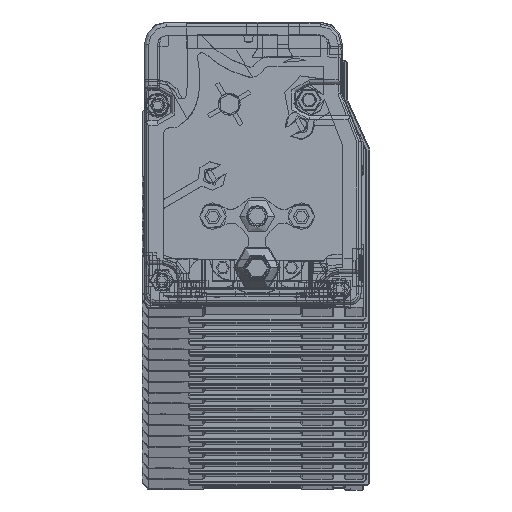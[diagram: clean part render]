
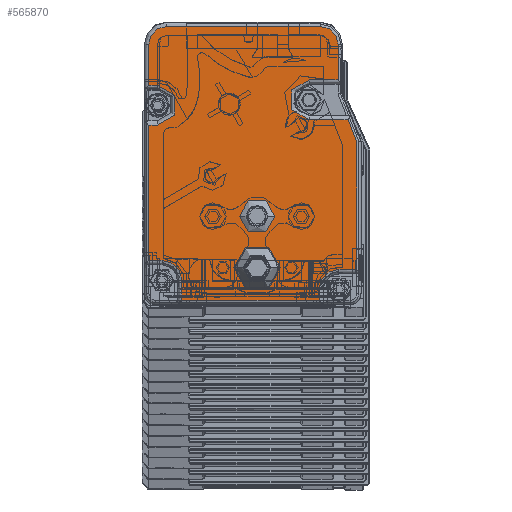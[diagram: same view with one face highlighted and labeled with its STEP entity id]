
A CAD part, top view. The second image highlights one B-rep face of the part: STEP entity #565870.
In plain terms, the highlighted planar face has unit normal (0, 0, 1).
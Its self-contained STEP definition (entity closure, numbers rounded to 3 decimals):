
#563760=CARTESIAN_POINT('',(-20.265,1.758,
3572.39));
#563770=DIRECTION('',(0.,0.,-1.));
#563780=DIRECTION('',(-1.,0.,0.));
#563790=AXIS2_PLACEMENT_3D('',#563760,#563770,#563780);
#563800=PLANE('',#563790);
#563810=CARTESIAN_POINT('',(-44.056,10.421,
3572.39));
#563820=DIRECTION('',(0.,0.,-1.));
#563830=DIRECTION('',(-1.,0.,0.));
#563840=AXIS2_PLACEMENT_3D('',#563810,#563820,#563830);
#563850=CIRCLE('',#563840,5.);
#563860=CARTESIAN_POINT('',(-49.056,10.421,
3572.39));
#563870=VERTEX_POINT('',#563860);
#563880=CARTESIAN_POINT('',(-39.056,10.421,
3572.39));
#563890=VERTEX_POINT('',#563880);
#563900=EDGE_CURVE('',#563870,#563890,#563850,.T.);
#563910=ORIENTED_EDGE('',*,*,#563900,.T.);
#563920=EDGE_CURVE('',#563890,#563870,#563850,.T.);
#563930=ORIENTED_EDGE('',*,*,#563920,.T.);
#563940=EDGE_LOOP('',(#563930,#563910));
#563950=FACE_BOUND('',#563940,.T.);
#563960=CARTESIAN_POINT('',(-44.059,22.124,
3572.39));
#563970=DIRECTION('',(0.,0.,1.));
#563980=DIRECTION('',(-1.,0.,0.));
#563990=AXIS2_PLACEMENT_3D('',#563960,#563970,#563980);
#564000=CIRCLE('',#563990,4.);
#564010=CARTESIAN_POINT('',(-40.059,22.124,
3572.39));
#564020=VERTEX_POINT('',#564010);
#564030=CARTESIAN_POINT('',(-48.059,22.124,
3572.39));
#564040=VERTEX_POINT('',#564030);
#564050=EDGE_CURVE('',#564020,#564040,#564000,.T.);
#564060=ORIENTED_EDGE('',*,*,#564050,.F.);
#564070=EDGE_CURVE('',#564040,#564020,#564000,.T.);
#564080=ORIENTED_EDGE('',*,*,#564070,.F.);
#564090=EDGE_LOOP('',(#564080,#564060));
#564100=FACE_BOUND('',#564090,.T.);
#564110=CARTESIAN_POINT('',(-61.059,2.124,
3572.39));
#564120=DIRECTION('',(0.,-1.,0.));
#564130=VECTOR('',#564120,1.);
#564140=LINE('',#564110,#564130);
#564150=CARTESIAN_POINT('',(-61.059,7.624,
3572.39));
#564160=VERTEX_POINT('',#564150);
#564170=CARTESIAN_POINT('',(-61.059,3.124,
3572.39));
#564180=VERTEX_POINT('',#564170);
#564190=EDGE_CURVE('',#564160,#564180,#564140,.T.);
#564200=ORIENTED_EDGE('',*,*,#564190,.T.);
#564210=CARTESIAN_POINT('',(-65.559,7.624,
3572.39));
#564220=DIRECTION('',(0.,0.,-1.));
#564230=DIRECTION('',(-1.,0.,0.));
#564240=AXIS2_PLACEMENT_3D('',#564210,#564220,#564230);
#564250=CIRCLE('',#564240,4.5);
#564260=CARTESIAN_POINT('',(-65.559,12.124,
3572.39));
#564270=VERTEX_POINT('',#564260);
#564280=EDGE_CURVE('',#564270,#564160,#564250,.T.);
#564290=ORIENTED_EDGE('',*,*,#564280,.T.);
#564300=CARTESIAN_POINT('',(-20.559,12.124,
3572.39));
#564310=DIRECTION('',(1.,0.,0.));
#564320=VECTOR('',#564310,1.);
#564330=LINE('',#564300,#564320);
#564340=CARTESIAN_POINT('',(-68.559,12.124,
3572.39));
#564350=VERTEX_POINT('',#564340);
#564360=EDGE_CURVE('',#564350,#564270,#564330,.T.);
#564370=ORIENTED_EDGE('',*,*,#564360,.T.);
#564380=CARTESIAN_POINT('',(-68.559,2.124,
3572.39));
#564390=DIRECTION('',(0.,-1.,0.));
#564400=VECTOR('',#564390,1.);
#564410=LINE('',#564380,#564400);
#564420=CARTESIAN_POINT('',(-68.559,42.727,
3572.39));
#564430=VERTEX_POINT('',#564420);
#564440=EDGE_CURVE('',#564430,#564350,#564410,.T.);
#564450=ORIENTED_EDGE('',*,*,#564440,.T.);
#564460=CARTESIAN_POINT('',(-20.559,42.727,
3572.39));
#564470=DIRECTION('',(-1.,0.,0.));
#564480=VECTOR('',#564470,1.);
#564490=LINE('',#564460,#564480);
#564500=CARTESIAN_POINT('',(-66.559,42.727,
3572.39));
#564510=VERTEX_POINT('',#564500);
#564520=EDGE_CURVE('',#564510,#564430,#564490,.T.);
#564530=ORIENTED_EDGE('',*,*,#564520,.T.);
#564540=CARTESIAN_POINT('',(-66.559,47.227,
3572.39));
#564550=DIRECTION('',(0.,0.,-1.));
#564560=DIRECTION('',(-1.,0.,0.));
#564570=AXIS2_PLACEMENT_3D('',#564540,#564550,#564560);
#564580=CIRCLE('',#564570,4.5);
#564590=CARTESIAN_POINT('',(-66.559,51.727,
3572.39));
#564600=VERTEX_POINT('',#564590);
#564610=EDGE_CURVE('',#564600,#564510,#564580,.T.);
#564620=ORIENTED_EDGE('',*,*,#564610,.T.);
#564630=CARTESIAN_POINT('',(-20.559,51.727,
3572.39));
#564640=DIRECTION('',(1.,0.,0.));
#564650=VECTOR('',#564640,1.);
#564660=LINE('',#564630,#564650);
#564670=CARTESIAN_POINT('',(-68.559,51.727,
3572.39));
#564680=VERTEX_POINT('',#564670);
#564690=EDGE_CURVE('',#564680,#564600,#564660,.T.);
#564700=ORIENTED_EDGE('',*,*,#564690,.T.);
#564710=CARTESIAN_POINT('',(-68.559,2.124,
3572.39));
#564720=DIRECTION('',(0.,-1.,0.));
#564730=VECTOR('',#564720,1.);
#564740=LINE('',#564710,#564730);
#564750=CARTESIAN_POINT('',(-68.559,61.024,
3572.39));
#564760=VERTEX_POINT('',#564750);
#564770=EDGE_CURVE('',#564760,#564680,#564740,.T.);
#564780=ORIENTED_EDGE('',*,*,#564770,.T.);
#564790=CARTESIAN_POINT('',(-64.559,61.024,
3572.39));
#564800=DIRECTION('',(0.,0.,1.));
#564810=DIRECTION('',(1.,0.,0.));
#564820=AXIS2_PLACEMENT_3D('',#564790,#564800,#564810);
#564830=CIRCLE('',#564820,4.);
#564840=CARTESIAN_POINT('',(-64.559,65.024,
3572.39));
#564850=VERTEX_POINT('',#564840);
#564860=EDGE_CURVE('',#564850,#564760,#564830,.T.);
#564870=ORIENTED_EDGE('',*,*,#564860,.T.);
#564880=CARTESIAN_POINT('',(-20.559,65.024,
3572.39));
#564890=DIRECTION('',(-1.,0.,0.));
#564900=VECTOR('',#564890,1.);
#564910=LINE('',#564880,#564900);
#564920=CARTESIAN_POINT('',(-29.759,65.024,
3572.39));
#564930=VERTEX_POINT('',#564920);
#564940=EDGE_CURVE('',#564930,#564850,#564910,.T.);
#564950=ORIENTED_EDGE('',*,*,#564940,.T.);
#564960=CARTESIAN_POINT('',(-29.759,61.024,
3572.39));
#564970=DIRECTION('',(0.,0.,1.));
#564980=DIRECTION('',(1.,0.,0.));
#564990=AXIS2_PLACEMENT_3D('',#564960,#564970,#564980);
#565000=CIRCLE('',#564990,4.);
#565010=CARTESIAN_POINT('',(-25.759,61.024,
3572.39));
#565020=VERTEX_POINT('',#565010);
#565030=EDGE_CURVE('',#565020,#564930,#565000,.T.);
#565040=ORIENTED_EDGE('',*,*,#565030,.T.);
#565050=CARTESIAN_POINT('',(-25.759,2.124,
3572.39));
#565060=DIRECTION('',(0.,1.,0.));
#565070=VECTOR('',#565060,1.);
#565080=LINE('',#565050,#565070);
#565090=CARTESIAN_POINT('',(-25.759,52.924,
3572.39));
#565100=VERTEX_POINT('',#565090);
#565110=EDGE_CURVE('',#565100,#565020,#565080,.T.);
#565120=ORIENTED_EDGE('',*,*,#565110,.T.);
#565130=CARTESIAN_POINT('',(-20.559,52.924,
3572.39));
#565140=DIRECTION('',(-1.,0.,0.));
#565150=VECTOR('',#565140,1.);
#565160=LINE('',#565130,#565150);
#565170=CARTESIAN_POINT('',(-32.309,52.924,
3572.39));
#565180=VERTEX_POINT('',#565170);
#565190=EDGE_CURVE('',#565100,#565180,#565160,.T.);
#565200=ORIENTED_EDGE('',*,*,#565190,.F.);
#565210=CARTESIAN_POINT('',(-32.309,48.424,
3572.39));
#565220=DIRECTION('',(0.,0.,-1.));
#565230=DIRECTION('',(-1.,0.,0.));
#565240=AXIS2_PLACEMENT_3D('',#565210,#565220,#565230);
#565250=CIRCLE('',#565240,4.5);
#565260=CARTESIAN_POINT('',(-32.309,43.924,
3572.39));
#565270=VERTEX_POINT('',#565260);
#565280=EDGE_CURVE('',#565270,#565180,#565250,.T.);
#565290=ORIENTED_EDGE('',*,*,#565280,.T.);
#565300=CARTESIAN_POINT('',(-20.559,43.924,
3572.39));
#565310=DIRECTION('',(-1.,0.,0.));
#565320=VECTOR('',#565310,1.);
#565330=LINE('',#565300,#565320);
#565340=CARTESIAN_POINT('',(-23.499,43.924,
3572.39));
#565350=VERTEX_POINT('',#565340);
#565360=EDGE_CURVE('',#565350,#565270,#565330,.T.);
#565370=ORIENTED_EDGE('',*,*,#565360,.T.);
#565380=CARTESIAN_POINT('',(-7.243,2.124,
3572.39));
#565390=DIRECTION('',(0.362,-0.932,0.));
#565400=VECTOR('',#565390,1.);
#565410=LINE('',#565380,#565400);
#565420=CARTESIAN_POINT('',(-21.559,38.937,
3572.39));
#565430=VERTEX_POINT('',#565420);
#565440=EDGE_CURVE('',#565350,#565430,#565410,.T.);
#565450=ORIENTED_EDGE('',*,*,#565440,.F.);
#565460=CARTESIAN_POINT('',(-21.559,2.124,
3572.39));
#565470=DIRECTION('',(0.,-1.,0.));
#565480=VECTOR('',#565470,1.);
#565490=LINE('',#565460,#565480);
#565500=CARTESIAN_POINT('',(-21.559,10.124,
3572.39));
#565510=VERTEX_POINT('',#565500);
#565520=EDGE_CURVE('',#565430,#565510,#565490,.T.);
#565530=ORIENTED_EDGE('',*,*,#565520,.F.);
#565540=CARTESIAN_POINT('',(-20.559,10.124,
3572.39));
#565550=DIRECTION('',(1.,0.,0.));
#565560=VECTOR('',#565550,1.);
#565570=LINE('',#565540,#565560);
#565580=CARTESIAN_POINT('',(-25.559,10.124,
3572.39));
#565590=VERTEX_POINT('',#565580);
#565600=EDGE_CURVE('',#565590,#565510,#565570,.T.);
#565610=ORIENTED_EDGE('',*,*,#565600,.T.);
#565620=CARTESIAN_POINT('',(-25.559,5.624,
3572.39));
#565630=DIRECTION('',(0.,0.,-1.));
#565640=DIRECTION('',(-1.,0.,0.));
#565650=AXIS2_PLACEMENT_3D('',#565620,#565630,#565640);
#565660=CIRCLE('',#565650,4.5);
#565670=CARTESIAN_POINT('',(-30.059,5.624,
3572.39));
#565680=VERTEX_POINT('',#565670);
#565690=EDGE_CURVE('',#565680,#565590,#565660,.T.);
#565700=ORIENTED_EDGE('',*,*,#565690,.T.);
#565710=CARTESIAN_POINT('',(-30.059,2.124,
3572.39));
#565720=DIRECTION('',(0.,1.,0.));
#565730=VECTOR('',#565720,1.);
#565740=LINE('',#565710,#565730);
#565750=CARTESIAN_POINT('',(-30.059,3.124,
3572.39));
#565760=VERTEX_POINT('',#565750);
#565770=EDGE_CURVE('',#565760,#565680,#565740,.T.);
#565780=ORIENTED_EDGE('',*,*,#565770,.T.);
#565790=CARTESIAN_POINT('',(-20.559,3.124,
3572.39));
#565800=DIRECTION('',(-1.,0.,0.));
#565810=VECTOR('',#565800,1.);
#565820=LINE('',#565790,#565810);
#565830=EDGE_CURVE('',#565760,#564180,#565820,.T.);
#565840=ORIENTED_EDGE('',*,*,#565830,.F.);
#565850=EDGE_LOOP('',(#565840,#565780,#565700,#565610,#565530,#565450,
#565370,#565290,#565200,#565120,#565040,#564950,#564870,#564780,#564700,
#564620,#564530,#564450,#564370,#564290,#564200));
#565860=FACE_OUTER_BOUND('',#565850,.T.);
#565870=ADVANCED_FACE('',(#563950,#564100,#565860),#563800,.F.);
